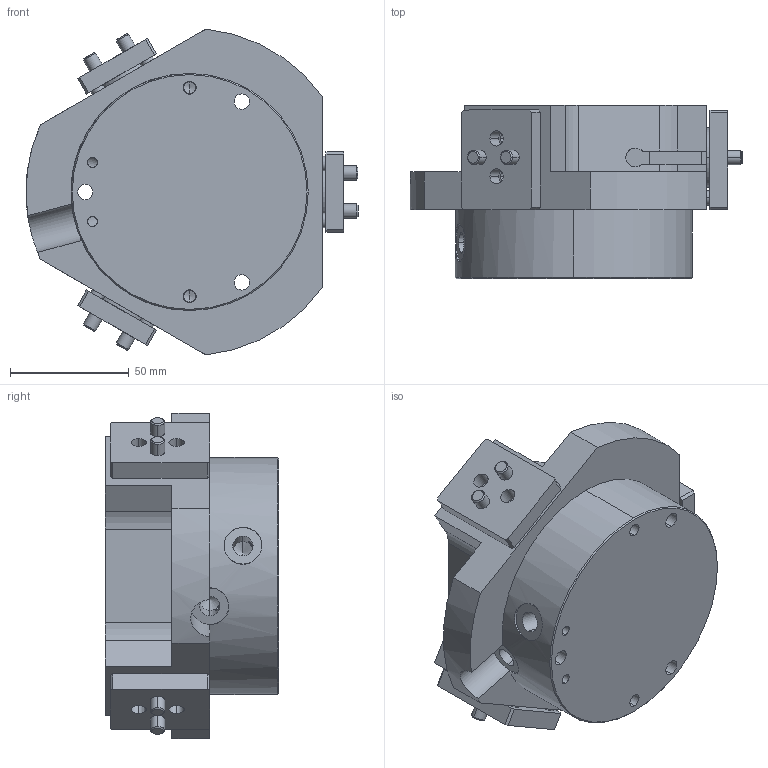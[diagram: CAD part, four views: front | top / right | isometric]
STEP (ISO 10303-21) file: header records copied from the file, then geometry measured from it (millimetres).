
FILE_DESCRIPTION (( 'STEP AP203' ), '1' );
FILE_NAME ('SRP100-原始檔-組合-W104.04.14.STEP', '2017-04-14T09:35:34', ( 'DanyaoCAD' ), ( '' ), 'SwSTEP 2.0', 'SolidWorks 2016', '' );
FILE_SCHEMA (( 'CONFIG_CONTROL_DESIGN' ));
Length unit declared in the file: millimetre
Products named in the file (3): Griffa; SRP100-原始檔-組合-W104.04.14; Corpo
Assembly tree (4 placements, depth 2):
  SRP100-原始檔-組合-W104.04.14
    Corpo
    Griffa  x3
Bounding box: 140 x 73 x 137.31 mm (x, y, z)
Volume: 621855.9 mm3; surface area: 103051.5 mm2
Topology: 4 solids, 4 shells, 1084 faces, 2947 edges, 1941 vertices
Faces by surface type: bspline 640, plane 268, cylinder 126, cone 50
Entity records: 49292 total; most frequent: CARTESIAN_POINT 28081, ORIENTED_EDGE 5436, EDGE_CURVE 2718, DIRECTION 2291, VERTEX_POINT 1804, B_SPLINE_CURVE_WITH_KNOTS 1310, VECTOR 1233, LINE 1233
